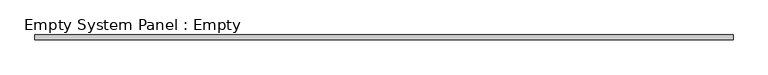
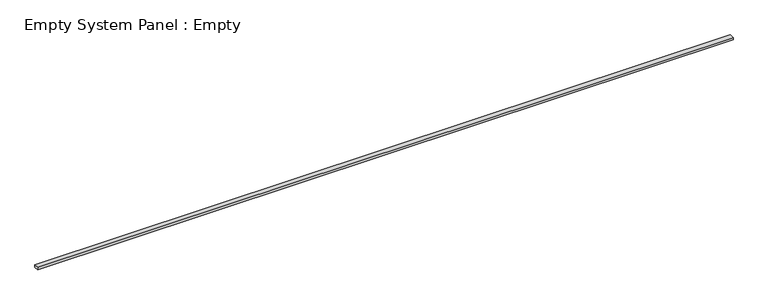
"""IFC4 building model written with IfcOpenShell, lengths in millimetres: plate geometry, Empty System Panel : Empty."""

from ifc_helpers import new_model, si_unit, origin, origin_with_axes, place, context, project, spatial, polyline, outline, extrude, source, transform, mapped, element, save


def empty_system_panel_empty_a278fc1e(model_context):
    return source(origin(), model_context, "Body", "SweptSolid", [
        extrude(outline(polyline([(7326.0487521, -50.0), (-7326.0487521, -50.0), (-7326.0487521, 50.0), (7326.0487521, 50.0), (7326.0487521, -50.0)])), origin_with_axes(), (0.0, 0.0, 1.0), 52.3845554),
    ])


if __name__ == "__main__":
    model = new_model("IFC4")
    model_context = context("Model", 3, world=origin())
    ifc_project = project(units=[si_unit("LENGTHUNIT", "METRE", prefix="MILLI")], contexts=[model_context])
    site = spatial("IfcSite", under=ifc_project)
    building = spatial("IfcBuilding", under=site)
    placement = place(None, origin())
    empty_system_panel_empty_shape = empty_system_panel_empty_a278fc1e(model_context)
    element("IfcPlate", 1, ObjectType="Empty System Panel : Empty", at=placement, inside=building, context=model_context, shape_type="MappedRepresentation", body=[
        mapped(empty_system_panel_empty_shape, transform((0.0, 0.0, 0.0), x_axis=(1.0, 0.0, 0.0), y_axis=(0.0, 1.0, 0.0), z_axis=(0.0, 0.0, 1.0))),
    ])
    save(model, "model.ifc")
